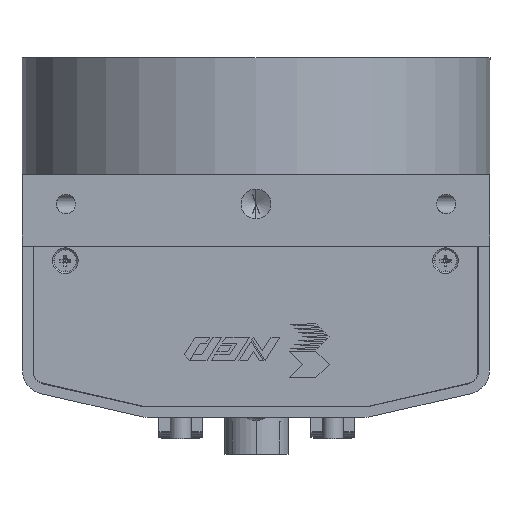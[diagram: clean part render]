
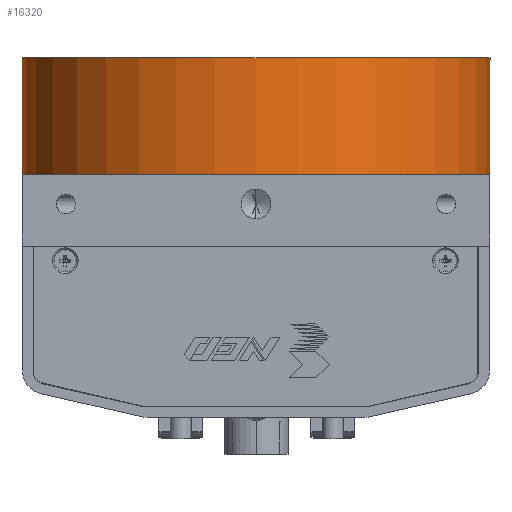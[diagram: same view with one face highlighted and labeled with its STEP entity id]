
A CAD part, front view. The second image highlights one B-rep face of the part: STEP entity #16320.
In plain terms, the highlighted cylindrical face has radius 40 mm (diameter 80 mm), a partial arc.
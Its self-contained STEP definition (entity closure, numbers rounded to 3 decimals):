
#346 = EDGE_CURVE ( 'NONE', #9853, #19265, #4734, .T. ) ;
#688 = EDGE_CURVE ( 'NONE', #9853, #13994, #6732, .T. ) ;
#1956 = CIRCLE ( 'NONE', #7938, 40. ) ;
#2827 = ORIENTED_EDGE ( 'NONE', *, *, #10170, .T. ) ;
#3227 = DIRECTION ( 'NONE',  ( 0., -1., 0. ) ) ;
#3836 = CARTESIAN_POINT ( 'NONE',  ( 0., 20., -40. ) ) ;
#4656 = CARTESIAN_POINT ( 'NONE',  ( 0., 0., 0. ) ) ;
#4734 = CIRCLE ( 'NONE', #7638, 40. ) ;
#5410 = DIRECTION ( 'NONE',  ( 0., 0., -1. ) ) ;
#5558 = CARTESIAN_POINT ( 'NONE',  ( 0., 20., 0. ) ) ;
#5576 = ORIENTED_EDGE ( 'NONE', *, *, #346, .F. ) ;
#5767 = LINE ( 'NONE', #11196, #17518 ) ;
#6106 = CYLINDRICAL_SURFACE ( 'NONE', #15511, 40. ) ;
#6256 = DIRECTION ( 'NONE',  ( 0., 0., 1. ) ) ;
#6627 = FACE_OUTER_BOUND ( 'NONE', #10259, .T. ) ;
#6628 = ORIENTED_EDGE ( 'NONE', *, *, #13709, .F. ) ;
#6732 = LINE ( 'NONE', #14419, #19955 ) ;
#7187 = DIRECTION ( 'NONE',  ( 0., 0., 1. ) ) ;
#7313 = CARTESIAN_POINT ( 'NONE',  ( 0., 0., 40. ) ) ;
#7638 = AXIS2_PLACEMENT_3D ( 'NONE', #5558, #16729, #7187 ) ;
#7938 = AXIS2_PLACEMENT_3D ( 'NONE', #4656, #15814, #6256 ) ;
#8010 = DIRECTION ( 'NONE',  ( 0., -1., 0. ) ) ;
#9853 = VERTEX_POINT ( 'NONE', #3836 ) ;
#10170 = EDGE_CURVE ( 'NONE', #13994, #14758, #1956, .T. ) ;
#10259 = EDGE_LOOP ( 'NONE', ( #6628, #5576, #17594, #2827 ) ) ;
#10525 = CARTESIAN_POINT ( 'NONE',  ( 0., 20., 40. ) ) ;
#11196 = CARTESIAN_POINT ( 'NONE',  ( 0., 20., 40. ) ) ;
#11774 = CARTESIAN_POINT ( 'NONE',  ( 0., 20., 0. ) ) ;
#13709 = EDGE_CURVE ( 'NONE', #19265, #14758, #5767, .T. ) ;
#13994 = VERTEX_POINT ( 'NONE', #16671 ) ;
#14419 = CARTESIAN_POINT ( 'NONE',  ( 0., 20., -40. ) ) ;
#14758 = VERTEX_POINT ( 'NONE', #7313 ) ;
#14973 = DIRECTION ( 'NONE',  ( 0., -1., 0. ) ) ;
#15511 = AXIS2_PLACEMENT_3D ( 'NONE', #11774, #14973, #5410 ) ;
#15814 = DIRECTION ( 'NONE',  ( 0., 1., 0. ) ) ;
#16320 = ADVANCED_FACE ( 'NONE', ( #6627 ), #6106, .T. ) ;
#16671 = CARTESIAN_POINT ( 'NONE',  ( 0., 0., -40. ) ) ;
#16729 = DIRECTION ( 'NONE',  ( 0., 1., 0. ) ) ;
#17518 = VECTOR ( 'NONE', #3227, 1000. ) ;
#17594 = ORIENTED_EDGE ( 'NONE', *, *, #688, .T. ) ;
#19265 = VERTEX_POINT ( 'NONE', #10525 ) ;
#19955 = VECTOR ( 'NONE', #8010, 1000. ) ;
